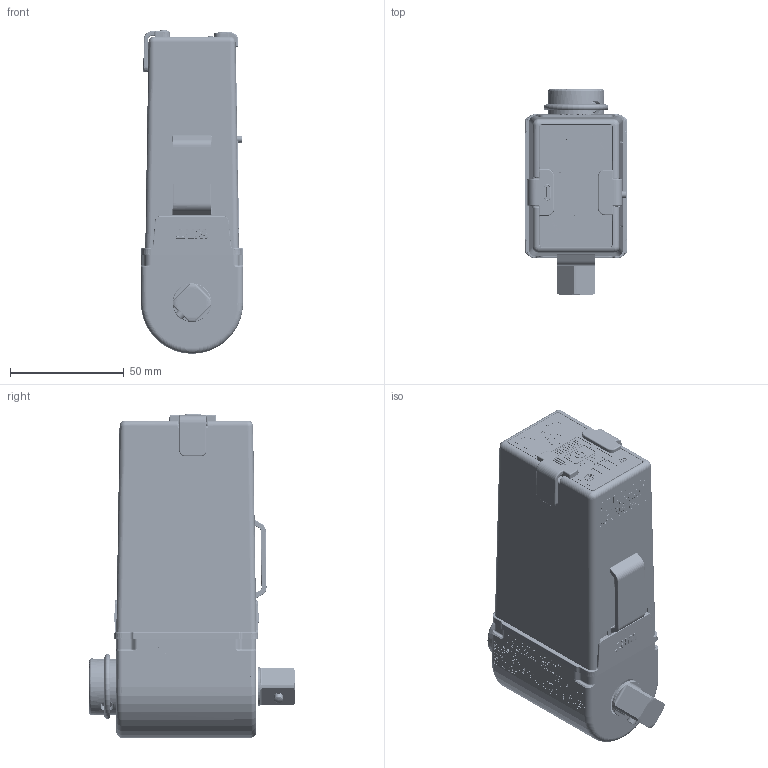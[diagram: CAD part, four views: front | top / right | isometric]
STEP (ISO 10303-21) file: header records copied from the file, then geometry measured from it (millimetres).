
FILE_DESCRIPTION((''),'2;1');
FILE_NAME('6152210560_DIM','2024-03-01T15:16:28',('S00000450'),(''),'CREO PARAMETRIC BY PTC INC, 2023254','CREO PARAMETRIC BY PTC INC, 2023254','');
FILE_SCHEMA(('AP242_MANAGED_MODEL_BASED_3D_ENGINEERING_MIM_LF { 1 0 10303 442 1 1 4 }'));
Products named in the file (1): 6152210560_DIM
Bounding box: 45 x 90.5 x 142.4 mm (x, y, z)
Volume: 127319.6 mm3; surface area: 98775.5 mm2
Topology: 6 solids, 6 shells, 9151 faces, 25067 edges, 16441 vertices
Faces by surface type: plane 4216, extrusion 3422, cylinder 837, cone 314, torus 199, bspline 149, sphere 14
Entity records: 378382 total; most frequent: CARTESIAN_POINT 102671, ORIENTED_EDGE 49998, DIRECTION 34207, EDGE_CURVE 24999, VECTOR 18561, VERTEX_POINT 16441, LINE 15139, B_SPLINE_CURVE_WITH_KNOTS 11039
